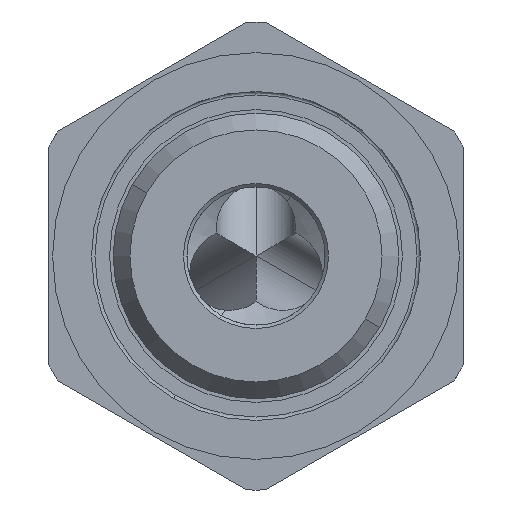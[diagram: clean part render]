
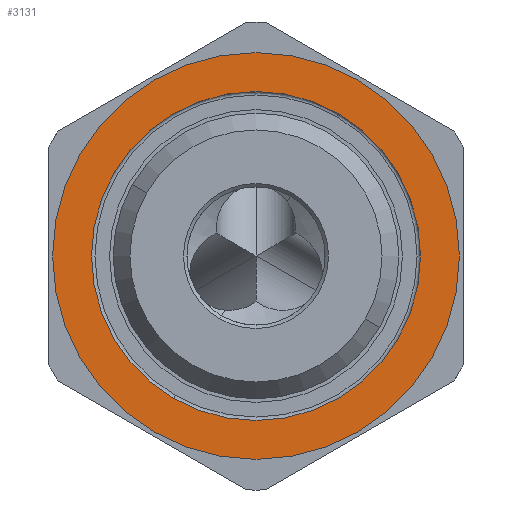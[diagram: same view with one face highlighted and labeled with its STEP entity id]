
A CAD part, front view. The second image highlights one B-rep face of the part: STEP entity #3131.
In plain terms, the highlighted planar face has unit normal (0, -1, 0) as drawn and (-1, 0, 0) by its records, which use the part's own axes.
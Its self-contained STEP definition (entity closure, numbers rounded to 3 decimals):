
#380=CARTESIAN_POINT('',(14.,15.625,0.));
#381=VERTEX_POINT('',#380);
#390=CARTESIAN_POINT('',(14.,-7.925,0.));
#391=VERTEX_POINT('',#390);
#392=CARTESIAN_POINT('',(14.,3.85,0.0));
#393=DIRECTION('',(-1.0,0.0,0.0));
#394=DIRECTION('',(0.0,1.0,0.0));
#395=AXIS2_PLACEMENT_3D('',#392,#393,#394);
#396=CIRCLE('',#395,11.775);
#397=EDGE_CURVE('',#391,#381,#396,.T.);
#554=CARTESIAN_POINT('',(14.,13.375,0.));
#555=VERTEX_POINT('',#554);
#564=CARTESIAN_POINT('',(14.,-5.675,0.));
#565=VERTEX_POINT('',#564);
#566=CARTESIAN_POINT('',(14.,3.85,0.0));
#567=DIRECTION('',(1.0,0.0,0.0));
#568=DIRECTION('',(0.0,1.0,0.0));
#569=AXIS2_PLACEMENT_3D('',#566,#567,#568);
#570=CIRCLE('',#569,9.525);
#571=EDGE_CURVE('',#565,#555,#570,.T.);
#2866=CARTESIAN_POINT('',(14.,3.85,0.0));
#2867=DIRECTION('',(1.0,0.0,0.0));
#2868=DIRECTION('',(0.0,1.0,0.0));
#2869=AXIS2_PLACEMENT_3D('',#2866,#2867,#2868);
#2870=CIRCLE('',#2869,9.525);
#2871=EDGE_CURVE('',#555,#565,#2870,.T.);
#2977=CARTESIAN_POINT('',(14.,3.85,0.0));
#2978=DIRECTION('',(-1.0,0.0,0.0));
#2979=DIRECTION('',(0.0,1.0,0.0));
#2980=AXIS2_PLACEMENT_3D('',#2977,#2978,#2979);
#2981=CIRCLE('',#2980,11.775);
#2982=EDGE_CURVE('',#381,#391,#2981,.T.);
#3118=CARTESIAN_POINT('',(14.,3.85,0.));
#3119=DIRECTION('',(1.0,0.0,0.0));
#3120=DIRECTION('',(0.0,0.0,-1.0));
#3121=AXIS2_PLACEMENT_3D('',#3118,#3119,#3120);
#3122=PLANE('',#3121);
#3123=ORIENTED_EDGE('',*,*,#2982,.T.);
#3124=ORIENTED_EDGE('',*,*,#397,.T.);
#3125=EDGE_LOOP('',(#3123,#3124));
#3126=FACE_OUTER_BOUND('',#3125,.T.);
#3127=ORIENTED_EDGE('',*,*,#2871,.T.);
#3128=ORIENTED_EDGE('',*,*,#571,.T.);
#3129=EDGE_LOOP('',(#3127,#3128));
#3130=FACE_BOUND('',#3129,.T.);
#3131=ADVANCED_FACE('',(#3126,#3130),#3122,.F.);
